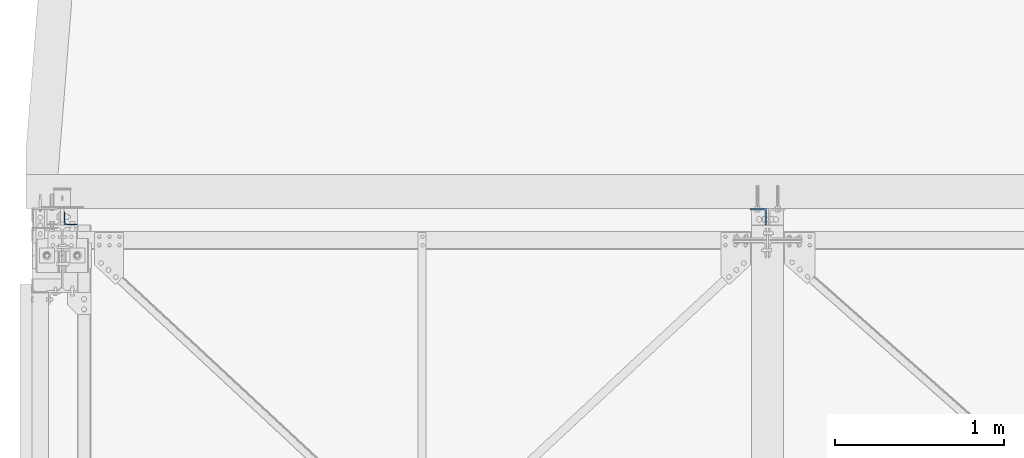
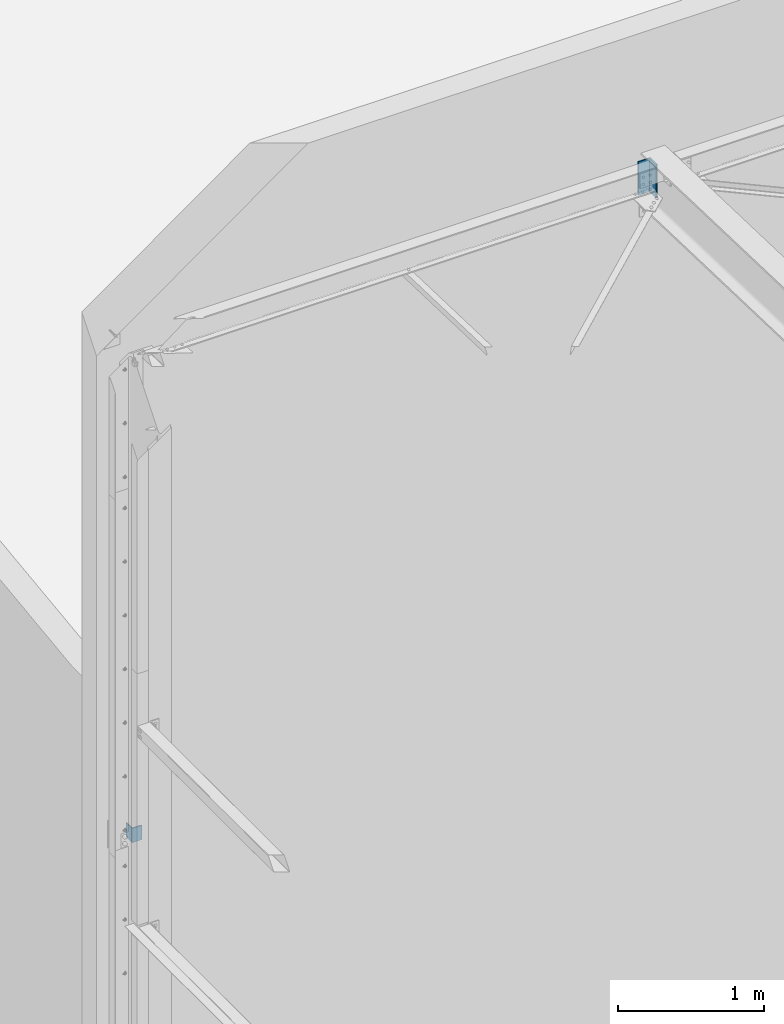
# One storey, part 24 of 362: 2 columns, 2 elements without a shape of their own.
"""IFC2X3 building model written with IfcOpenShell, lengths in millimetres."""

import ifcopenshell
import ifcopenshell.guid

model = None  # the IFC model being written
_history = None  # IfcOwnerHistory: only IFC2X3 demands one
_inside = {}  # id of a spatial element -> (the spatial element, [elements in it])
_under = {}  # id of a project, library or spatial element -> (it, [spatial elements below it])
_declared = {}  # id of a project -> (the project, [libraries it declares])
_typed = {}  # id of a type object -> (the type object, [elements of that type])
_made_of = {}  # id of a material, layer set ... -> (it, [elements and type objects made of it])


def new_model(schema):
    """Start an empty IFC model of exactly this schema.

    Asked for "IFC4X3", IfcOpenShell would pick the latest addendum, in which some entities
    have other attributes; the version numbers below select the first issue.
    IFC2X3 requires an IfcOwnerHistory on every rooted entity: one is made here for all.
    """
    global model, _history
    if schema == "IFC4X3":
        model = ifcopenshell.file(schema_version=(4, 3, 0, 0))
    else:
        model = ifcopenshell.file(schema=schema)
    _inside.clear()
    _under.clear()
    _declared.clear()
    _typed.clear()
    _made_of.clear()
    _history = None
    if model.schema == "IFC2X3":
        org = make("IfcOrganization", Name="unknown")
        user = make(
            "IfcPersonAndOrganization",
            ThePerson=make("IfcPerson", FamilyName="unknown"),
            TheOrganization=org,
        )
        app = make(
            "IfcApplication",
            ApplicationDeveloper=org,
            Version="unknown",
            ApplicationFullName="unknown",
            ApplicationIdentifier="unknown",
        )
        _history = make(
            "IfcOwnerHistory",
            OwningUser=user,
            OwningApplication=app,
            ChangeAction="ADDED",
            CreationDate=0,
        )
    return model


def make(cls, **values):
    """One entity of the class cls with the attributes given. An attribute that is None is left unset."""
    return model.create_entity(
        cls, **{name: value for name, value in values.items() if value is not None}
    )


def rooted(cls, **values):
    """An entity with a GlobalId (a new one), such as an element, a storey or a relation."""
    return make(cls, GlobalId=ifcopenshell.guid.new(), OwnerHistory=_history, **values)


def si_unit(unit_type, name, prefix=None):
    """IfcSIUnit, for example si_unit("LENGTHUNIT", "METRE", prefix="MILLI")."""
    return make("IfcSIUnit", UnitType=unit_type, Prefix=prefix, Name=name)


def assignment(units):
    """IfcUnitAssignment: the units of a project."""
    return None if units is None else make("IfcUnitAssignment", Units=units)


def point(xyz):
    """IfcCartesianPoint."""
    return None if xyz is None else make("IfcCartesianPoint", Coordinates=xyz)


def direction(xyz):
    """IfcDirection."""
    return None if xyz is None else make("IfcDirection", DirectionRatios=xyz)


def frame(location, z_axis=None, x_axis=None):
    """IfcAxis2Placement3D, a coordinate frame: its origin and axes. An axis left out is left unset."""
    return make(
        "IfcAxis2Placement3D",
        Location=point(location),
        Axis=direction(z_axis),
        RefDirection=direction(x_axis),
    )


def frame_2d(location, x_axis=None):
    """IfcAxis2Placement2D, a coordinate frame in the plane: its origin and x axis."""
    return make(
        "IfcAxis2Placement2D", Location=point(location), RefDirection=direction(x_axis)
    )


def origin_with_axes():
    """The frame at (0, 0, 0) with the z axis (0, 0, 1) and the x axis (1, 0, 0) written out."""
    return frame((0.0, 0.0, 0.0), z_axis=(0.0, 0.0, 1.0), x_axis=(1.0, 0.0, 0.0))


def origin_2d_with_axis():
    """The frame at (0, 0) in the plane with the x axis (1, 0) written out."""
    return frame_2d((0.0, 0.0), x_axis=(1.0, 0.0))


def place(relative_to, where):
    """IfcLocalPlacement: puts the frame where relative to a parent placement (None: the world)."""
    return make(
        "IfcLocalPlacement", PlacementRelTo=relative_to, RelativePlacement=where
    )


def context(
    kind, dimensions, precision=None, world=None, true_north=None, identifier=None
):
    """IfcGeometricRepresentationContext, for example the 3D "Model" context."""
    return make(
        "IfcGeometricRepresentationContext",
        ContextIdentifier=identifier,
        ContextType=kind,
        CoordinateSpaceDimension=dimensions,
        Precision=precision,
        WorldCoordinateSystem=world,
        TrueNorth=true_north,
    )


def subcontext(parent, identifier, kind, view, scale=None):
    """IfcGeometricRepresentationSubContext, for example "Body" below "Model"."""
    return make(
        "IfcGeometricRepresentationSubContext",
        ContextIdentifier=identifier,
        ContextType=kind,
        ParentContext=parent,
        TargetScale=scale,
        TargetView=view,
    )


def project(units=None, contexts=None):
    """IfcProject with its units and contexts."""
    return rooted(
        "IfcProject",
        Name="project",
        RepresentationContexts=contexts,
        UnitsInContext=assignment(units),
    )


def spatial(cls, under=None, at=None, **own):
    """A site, building, storey or space (cls), placed at a placement, below another one or the project."""
    s = rooted(cls, ObjectPlacement=at, **own)
    if under is not None:
        _under.setdefault(under.id(), (under, []))[1].append(s)
    return s


def profile(cls, at=None, kind="AREA", **sizes):
    """A parametric profile (cls). Its sizes go by their IFC names, for example OverallWidth=200.0."""
    return make(cls, ProfileType=kind, Position=at, **sizes)


def l_section(**sizes):
    """IfcLShapeProfileDef."""
    return profile("IfcLShapeProfileDef", **sizes)


def extrude(swept, where, along, depth):
    """IfcExtrudedAreaSolid: the profile swept, set in the frame where, extruded along a direction by depth."""
    return make(
        "IfcExtrudedAreaSolid",
        SweptArea=swept,
        Position=where,
        ExtrudedDirection=direction(along),
        Depth=depth,
    )


def shape(context_of_items, identifier, shape_type, items):
    """IfcShapeRepresentation: the items that make up one representation, for example the "Body"."""
    return make(
        "IfcShapeRepresentation",
        ContextOfItems=context_of_items,
        RepresentationIdentifier=identifier,
        RepresentationType=shape_type,
        Items=items,
    )


def material(Name=None, Category=None):
    """IfcMaterial."""
    return make("IfcMaterial", Name=Name, Category=Category)


def made_of(thing, what):
    """Note that an element or type object is made of a material, layer set ...; save() writes the relation."""
    if what is not None:
        _made_of.setdefault(what.id(), (what, []))[1].append(thing)
    return thing


def type_object(cls, material=None, **own):
    """A type object (cls), such as IfcWallType, which elements share."""
    return made_of(rooted(cls, **own), material)


def element(
    cls,
    number,
    at=None,
    inside=None,
    cuts=None,
    type_object=None,
    material=None,
    context=None,
    identifier="Body",
    shape_type=None,
    held_by="IfcProductDefinitionShape",
    body=None,
    shapes=None,
    **own,
):
    """One element of the class cls, such as IfcWall. Its Tag is "e" and its number.

    at: its placement. inside: the storey or other place that contains it. cuts: it is an
    opening in that element (IfcRelVoidsElement). A single representation is given by context,
    identifier, shape_type and body (its items); several are given by shapes. held_by: the class
    of the entity that holds the representations. save() writes the other relations.
    """
    e = rooted(cls, Tag="e%d" % number, ObjectPlacement=at, **own)
    if body is not None:
        shapes = [shape(context, identifier, shape_type, body)]
    if shapes is not None:
        e.Representation = make(held_by, Representations=shapes)
    if inside is not None:
        _inside.setdefault(inside.id(), (inside, []))[1].append(e)
    if cuts is not None:
        rooted(
            "IfcRelVoidsElement", RelatingBuildingElement=cuts, RelatedOpeningElement=e
        )
    if type_object is not None:
        _typed.setdefault(type_object.id(), (type_object, []))[1].append(e)
    return made_of(e, material)


def aggregate(whole, parts):
    """IfcRelAggregates: a whole, such as a stair, and the parts it consists of."""
    return rooted("IfcRelAggregates", RelatingObject=whole, RelatedObjects=parts)


def save(model, path):
    """Write the relations noted so far, then the file.

    IfcRelAggregates (storeys below a building ...), IfcRelContainedInSpatialStructure (elements
    in a storey), IfcRelDefinesByType, IfcRelAssociatesMaterial and IfcRelDeclares: one each for
    every whole, place, type object, material and project.
    """
    for whole, parts in _under.values():
        aggregate(whole, parts)
    for where, things in _inside.values():
        rooted(
            "IfcRelContainedInSpatialStructure",
            RelatedElements=things,
            RelatingStructure=where,
        )
    for kind, things in _typed.values():
        rooted("IfcRelDefinesByType", RelatedObjects=things, RelatingType=kind)
    for what, things in _made_of.values():
        rooted("IfcRelAssociatesMaterial", RelatedObjects=things, RelatingMaterial=what)
    for by, libraries in _declared.values():
        rooted("IfcRelDeclares", RelatingContext=by, RelatedDefinitions=libraries)
    model.write(path)


model = new_model("IFC2X3")

# Units and contexts
model_context = context("Model", 3, precision=1e-05, world=origin_with_axes())
body_context = subcontext(model_context, "Body", "Model", "MODEL_VIEW")
ifc_project = project(units=[si_unit("LENGTHUNIT", "METRE", prefix="MILLI"), si_unit("AREAUNIT", "SQUARE_METRE"), si_unit("VOLUMEUNIT", "CUBIC_METRE"), si_unit("MASSUNIT", "GRAM", prefix="KILO"), si_unit("TIMEUNIT", "SECOND"), si_unit("PLANEANGLEUNIT", "RADIAN"), si_unit("SOLIDANGLEUNIT", "STERADIAN"), si_unit("THERMODYNAMICTEMPERATUREUNIT", "DEGREE_CELSIUS"), si_unit("LUMINOUSINTENSITYUNIT", "LUMEN")], contexts=[model_context])

# Site, building, storey
site_placement = place(None, origin_with_axes())
site = spatial("IfcSite", under=ifc_project, at=site_placement, Name="Undefined", CompositionType="ELEMENT")
building_placement = place(site_placement, origin_with_axes())
building = spatial("IfcBuilding", under=site, at=building_placement, Name="Undefined", CompositionType="ELEMENT")
storey_placement = place(building_placement, origin_with_axes())
storey = spatial("IfcBuildingStorey", under=building, at=storey_placement, Name="Undefined", CompositionType="ELEMENT", Elevation=0.0)

# Assembly, column
assembly_1_placement = place(storey_placement, origin_with_axes())
assembly_1 = element("IfcElementAssembly", 1, at=assembly_1_placement, inside=storey, AssemblyPlace="NOTDEFINED", PredefinedType="NOTDEFINED")
ifc_material = material(Name="Undefined/S235-E24")
column_type_1 = type_object("IfcColumnType", Name="L80*8", PredefinedType="NOTDEFINED")
column_1_placement = place(assembly_1_placement, frame((50.0, 15330.0000024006, 3255.0), z_axis=(0.0, 0.0, 1.0), x_axis=(1.0, 0.0, 0.0)))
column_1 = element("IfcColumn", 2, at=column_1_placement, type_object=column_type_1, material=ifc_material, Name="ATTACHE", ObjectType="L80*8", context=body_context, shape_type="SweptSolid", body=[
    extrude(l_section(Depth=80.0, Width=80.0, Thickness=8.0, FilletRadius=10.0, EdgeRadius=5.0, at=origin_2d_with_axis()), frame((0.0, 0.0, 120.0), z_axis=(0.0, 0.0, -1.0), x_axis=(0.0, 1.0, 0.0)), (0.0, 0.0, 1.0), 120.0),
])
aggregate(assembly_1, [column_1])

assembly_2_placement = place(storey_placement, origin_with_axes())
assembly_2 = element("IfcElementAssembly", 3, at=assembly_2_placement, inside=storey, AssemblyPlace="NOTDEFINED", PredefinedType="NOTDEFINED")
column_type_2 = type_object("IfcColumnType", Name="L100*10", PredefinedType="NOTDEFINED")
column_2_placement = place(assembly_2_placement, frame((4125.0, 15340.0, 7203.28139518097), z_axis=(0.0, 0.0, 1.0), x_axis=(-1.0, 0.0, 0.0)))
column_2 = element("IfcColumn", 4, at=column_2_placement, type_object=column_type_2, material=ifc_material, Name="ATTACHE", ObjectType="L100*10", context=body_context, shape_type="SweptSolid", body=[
    extrude(l_section(Depth=100.0, Width=100.0, Thickness=10.0, FilletRadius=12.0, EdgeRadius=6.0, at=origin_2d_with_axis()), frame((0.0, 0.0, 280.0), z_axis=(0.0, 0.0, -1.0), x_axis=(0.0, 1.0, 0.0)), (0.0, 0.0, 1.0), 280.0),
])
aggregate(assembly_2, [column_2])

save(model, "model.ifc")
